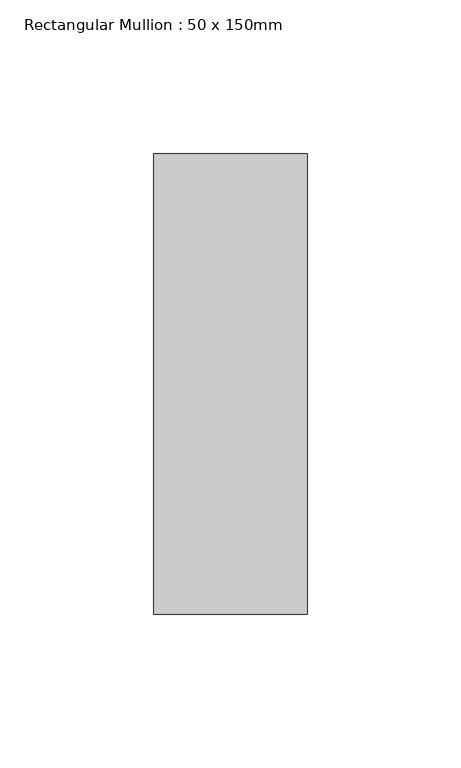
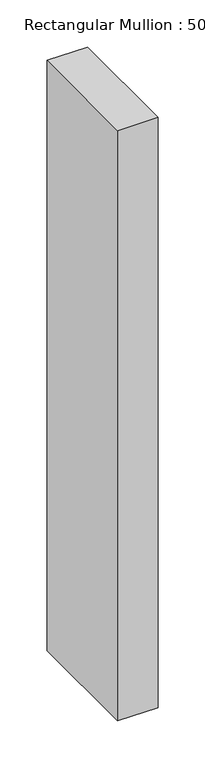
"""IFC4 building model written with IfcOpenShell, lengths in millimetres: member geometry, Rectangular Mullion : 50 x 150mm."""

from ifc_helpers import new_model, si_unit, frame, origin, place, context, project, spatial, polyline, outline, extrude, source, transform, mapped, element, save


def rectangular_mullion_50_x_150mm_0782772d(model_context):
    return source(origin(), model_context, "Body", "SweptSolid", [
        extrude(outline(polyline([(0.0, 75.0), (0.0, -75.0), (-50.0, -75.0), (-50.0, 75.0), (0.0, 75.0)])), frame((0.0, 0.0, -766.6666668), z_axis=(0.0, 0.0, 1.0), x_axis=(1.0, 0.0, 0.0)), (0.0, 0.0, 1.0), 766.6666668),
    ])


if __name__ == "__main__":
    model = new_model("IFC4")
    model_context = context("Model", 3, world=origin())
    ifc_project = project(units=[si_unit("LENGTHUNIT", "METRE", prefix="MILLI")], contexts=[model_context])
    site = spatial("IfcSite", under=ifc_project)
    building = spatial("IfcBuilding", under=site)
    placement = place(None, origin())
    rectangular_mullion_50_x_150mm_shape = rectangular_mullion_50_x_150mm_0782772d(model_context)
    element("IfcMember", 1, ObjectType="Rectangular Mullion : 50 x 150mm", at=placement, inside=building, context=model_context, shape_type="MappedRepresentation", body=[
        mapped(rectangular_mullion_50_x_150mm_shape, transform((0.0, 0.0, 0.0), x_axis=(1.0, 0.0, 0.0), y_axis=(0.0, 1.0, 0.0), z_axis=(0.0, 0.0, 1.0))),
    ])
    save(model, "model.ifc")
